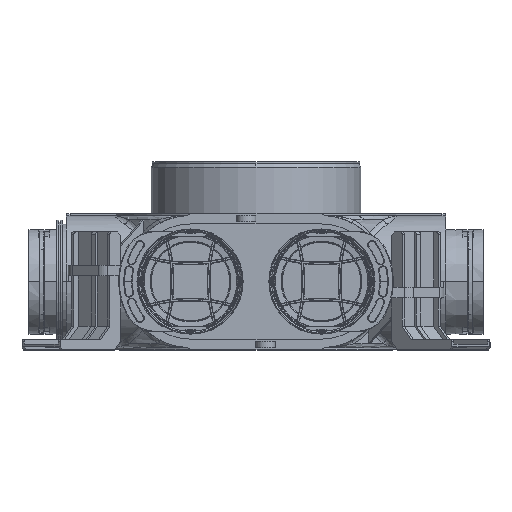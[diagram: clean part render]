
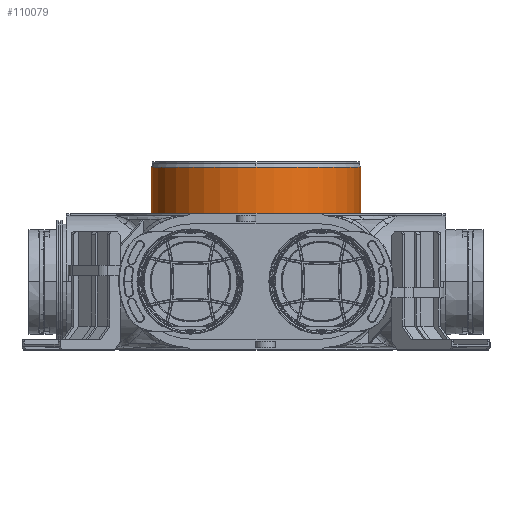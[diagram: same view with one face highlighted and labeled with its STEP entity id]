
A CAD part, top view. The second image highlights one B-rep face of the part: STEP entity #110079.
In plain terms, the highlighted cylindrical face has radius 80 mm (diameter 160 mm), a partial arc.
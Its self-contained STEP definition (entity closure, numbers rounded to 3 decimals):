
#96144=CARTESIAN_POINT('',(0.,-50.5,0.));
#96145=DIRECTION('',(0.,-1.,0.));
#96146=DIRECTION('',(-1.,0.,0.));
#96147=AXIS2_PLACEMENT_3D('',#96144,#96145,#96146);
#96149=DIRECTION('',(0.,1.,0.));
#96150=VECTOR('',#96149,37.);
#96151=CARTESIAN_POINT('',(-80.,-87.5,0.));
#96152=LINE('',#96151,#96150);
#96153=DIRECTION('',(0.,1.,0.));
#96154=VECTOR('',#96153,37.);
#96155=CARTESIAN_POINT('',(80.,-87.5,0.));
#96156=LINE('',#96155,#96154);
#96157=CARTESIAN_POINT('',(0.,-87.5,0.));
#96158=DIRECTION('',(0.,1.,0.));
#96159=DIRECTION('',(0.,0.,-1.));
#96160=AXIS2_PLACEMENT_3D('',#96157,#96158,#96159);
#96180=CARTESIAN_POINT('',(0.,-87.5,0.));
#96181=DIRECTION('',(0.,1.,0.));
#96182=DIRECTION('',(1.,0.,0.));
#96183=AXIS2_PLACEMENT_3D('',#96180,#96181,#96182);
#99390=CARTESIAN_POINT('',(80.,-50.5,0.));
#99391=CARTESIAN_POINT('',(-80.,-50.5,0.));
#99392=VERTEX_POINT('',#99390);
#99393=VERTEX_POINT('',#99391);
#99394=CARTESIAN_POINT('',(-80.,-87.5,0.));
#99395=VERTEX_POINT('',#99394);
#99396=CARTESIAN_POINT('',(80.,-87.5,0.));
#99397=VERTEX_POINT('',#99396);
#99400=CARTESIAN_POINT('',(0.,-87.5,-80.));
#99401=VERTEX_POINT('',#99400);
#110065=CARTESIAN_POINT('',(0.,-50.5,0.));
#110066=DIRECTION('',(0.,-1.,0.));
#110067=DIRECTION('',(-1.,0.,0.));
#110068=AXIS2_PLACEMENT_3D('',#110065,#110066,#110067);
#110069=CYLINDRICAL_SURFACE('',#110068,80.);
#110070=ORIENTED_EDGE('',*,*,#110053,.F.);
#110072=ORIENTED_EDGE('',*,*,#110071,.F.);
#110074=ORIENTED_EDGE('',*,*,#110073,.F.);
#110075=ORIENTED_EDGE('',*,*,#110056,.T.);
#110076=ORIENTED_EDGE('',*,*,#110043,.F.);
#110077=EDGE_LOOP('',(#110070,#110072,#110074,#110075,#110076));
#110078=FACE_OUTER_BOUND('',#110077,.F.);
#110079=ADVANCED_FACE('',(#110078),#110069,.T.);
#96148=CIRCLE('',#96147,80.);
#96161=CIRCLE('',#96160,80.);
#96184=CIRCLE('',#96183,80.);
#110043=EDGE_CURVE('',#99393,#99392,#96148,.T.);
#110053=EDGE_CURVE('',#99395,#99393,#96152,.T.);
#110056=EDGE_CURVE('',#99397,#99392,#96156,.T.);
#110071=EDGE_CURVE('',#99401,#99395,#96161,.T.);
#110073=EDGE_CURVE('',#99397,#99401,#96184,.T.);
